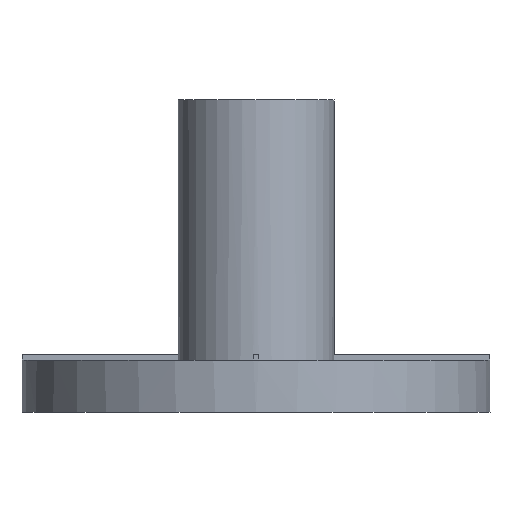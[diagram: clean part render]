
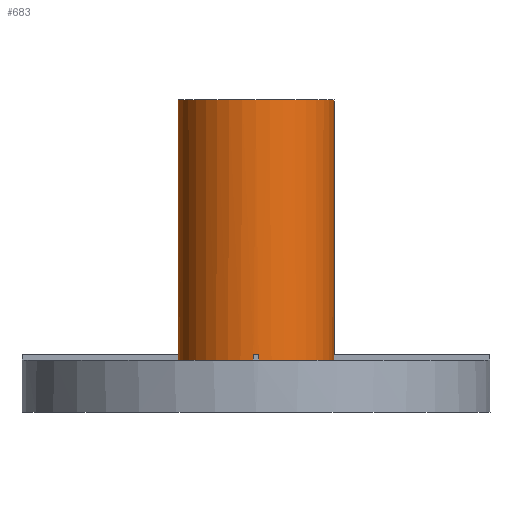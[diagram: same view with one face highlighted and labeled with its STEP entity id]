
A CAD part, front view. The second image highlights one B-rep face of the part: STEP entity #683.
In plain terms, the highlighted cylindrical face has radius 0.381 mm (diameter 0.762 mm), a partial arc.
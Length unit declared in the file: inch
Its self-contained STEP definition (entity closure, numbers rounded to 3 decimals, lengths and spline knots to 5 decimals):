
#40=DIRECTION('',(0.,0.,1.));
#41=VECTOR('',#40,0.049);
#42=CARTESIAN_POINT('',(0.015,0.,0.011));
#43=LINE('',#42,#41);
#80=CARTESIAN_POINT('',(0.,0.,0.01));
#81=DIRECTION('',(0.,0.,1.));
#82=DIRECTION('',(-0.999,-0.033,0.));
#83=AXIS2_PLACEMENT_3D('',#80,#81,#82);
#98=CARTESIAN_POINT('',(0.,0.,0.01));
#99=DIRECTION('',(0.,0.,1.));
#100=DIRECTION('',(0.033,-0.999,0.));
#101=AXIS2_PLACEMENT_3D('',#98,#99,#100);
#137=CARTESIAN_POINT('',(0.,0.,0.011));
#138=DIRECTION('',(0.,0.,1.));
#139=DIRECTION('',(0.999,-0.033,0.));
#140=AXIS2_PLACEMENT_3D('',#137,#138,#139);
#164=CARTESIAN_POINT('',(0.,0.,0.011));
#165=DIRECTION('',(0.,0.,1.));
#166=DIRECTION('',(-1.,0.,0.));
#167=AXIS2_PLACEMENT_3D('',#164,#165,#166);
#181=CARTESIAN_POINT('',(0.,0.,0.011));
#182=DIRECTION('',(0.,0.,1.));
#183=DIRECTION('',(-0.033,-0.999,0.));
#184=AXIS2_PLACEMENT_3D('',#181,#182,#183);
#235=DIRECTION('',(0.,0.,1.));
#236=VECTOR('',#235,0.001);
#237=CARTESIAN_POINT('',(-0.0005,-0.01499,0.01));
#238=LINE('',#237,#236);
#239=DIRECTION('',(0.,0.,1.));
#240=VECTOR('',#239,0.049);
#241=CARTESIAN_POINT('',(-0.015,0.,0.011));
#242=LINE('',#241,#240);
#243=DIRECTION('',(0.,0.,1.));
#244=VECTOR('',#243,0.001);
#245=CARTESIAN_POINT('',(-0.01499,-0.0005,0.01));
#246=LINE('',#245,#244);
#256=CARTESIAN_POINT('',(0.,0.,0.06));
#257=DIRECTION('',(0.,0.,1.));
#258=DIRECTION('',(-1.,0.,0.));
#259=AXIS2_PLACEMENT_3D('',#256,#257,#258);
#261=DIRECTION('',(0.,0.,1.));
#262=VECTOR('',#261,0.001);
#263=CARTESIAN_POINT('',(0.01499,-0.0005,0.01));
#264=LINE('',#263,#262);
#265=DIRECTION('',(0.,0.,1.));
#266=VECTOR('',#265,0.001);
#267=CARTESIAN_POINT('',(0.0005,-0.01499,0.01));
#268=LINE('',#267,#266);
#315=CARTESIAN_POINT('',(0.015,0.,0.06));
#316=CARTESIAN_POINT('',(-0.015,0.,0.06));
#317=VERTEX_POINT('',#315);
#318=VERTEX_POINT('',#316);
#327=CARTESIAN_POINT('',(-0.01499,-0.0005,0.01));
#328=CARTESIAN_POINT('',(-0.0005,-0.01499,0.01));
#329=VERTEX_POINT('',#327);
#330=VERTEX_POINT('',#328);
#331=CARTESIAN_POINT('',(0.0005,-0.01499,0.01));
#332=CARTESIAN_POINT('',(0.01499,-0.0005,0.01));
#333=VERTEX_POINT('',#331);
#334=VERTEX_POINT('',#332);
#335=CARTESIAN_POINT('',(0.015,0.,0.011));
#337=VERTEX_POINT('',#335);
#344=CARTESIAN_POINT('',(-0.015,0.,0.011));
#346=VERTEX_POINT('',#344);
#347=CARTESIAN_POINT('',(-0.01499,-0.0005,0.011));
#348=VERTEX_POINT('',#347);
#349=CARTESIAN_POINT('',(-0.0005,-0.01499,0.011));
#350=CARTESIAN_POINT('',(0.0005,-0.01499,0.011));
#351=VERTEX_POINT('',#349);
#352=VERTEX_POINT('',#350);
#353=CARTESIAN_POINT('',(0.01499,-0.0005,0.011));
#354=VERTEX_POINT('',#353);
#660=CARTESIAN_POINT('',(0.,0.,0.01));
#661=DIRECTION('',(0.,0.,1.));
#662=DIRECTION('',(1.,0.,0.));
#663=AXIS2_PLACEMENT_3D('',#660,#661,#662);
#664=CYLINDRICAL_SURFACE('',#663,0.015);
#665=ORIENTED_EDGE('',*,*,#485,.F.);
#667=ORIENTED_EDGE('',*,*,#666,.T.);
#668=ORIENTED_EDGE('',*,*,#563,.F.);
#669=ORIENTED_EDGE('',*,*,#437,.T.);
#671=ORIENTED_EDGE('',*,*,#670,.T.);
#672=ORIENTED_EDGE('',*,*,#433,.F.);
#673=ORIENTED_EDGE('',*,*,#538,.F.);
#675=ORIENTED_EDGE('',*,*,#674,.F.);
#676=ORIENTED_EDGE('',*,*,#501,.F.);
#678=ORIENTED_EDGE('',*,*,#677,.T.);
#679=ORIENTED_EDGE('',*,*,#577,.F.);
#680=ORIENTED_EDGE('',*,*,#652,.F.);
#681=EDGE_LOOP('',(#665,#667,#668,#669,#671,#672,#673,#675,#676,#678,#679,
#680));
#682=FACE_OUTER_BOUND('',#681,.F.);
#683=ADVANCED_FACE('',(#682),#664,.T.);
#84=CIRCLE('',#83,0.015);
#102=CIRCLE('',#101,0.015);
#141=CIRCLE('',#140,0.015);
#168=CIRCLE('',#167,0.015);
#185=CIRCLE('',#184,0.015);
#260=CIRCLE('',#259,0.015);
#433=EDGE_CURVE('',#337,#317,#43,.T.);
#437=EDGE_CURVE('',#346,#318,#242,.T.);
#485=EDGE_CURVE('',#329,#330,#84,.T.);
#501=EDGE_CURVE('',#333,#334,#102,.T.);
#538=EDGE_CURVE('',#354,#337,#141,.T.);
#563=EDGE_CURVE('',#346,#348,#168,.T.);
#577=EDGE_CURVE('',#351,#352,#185,.T.);
#652=EDGE_CURVE('',#330,#351,#238,.T.);
#666=EDGE_CURVE('',#329,#348,#246,.T.);
#670=EDGE_CURVE('',#318,#317,#260,.T.);
#674=EDGE_CURVE('',#334,#354,#264,.T.);
#677=EDGE_CURVE('',#333,#352,#268,.T.);
